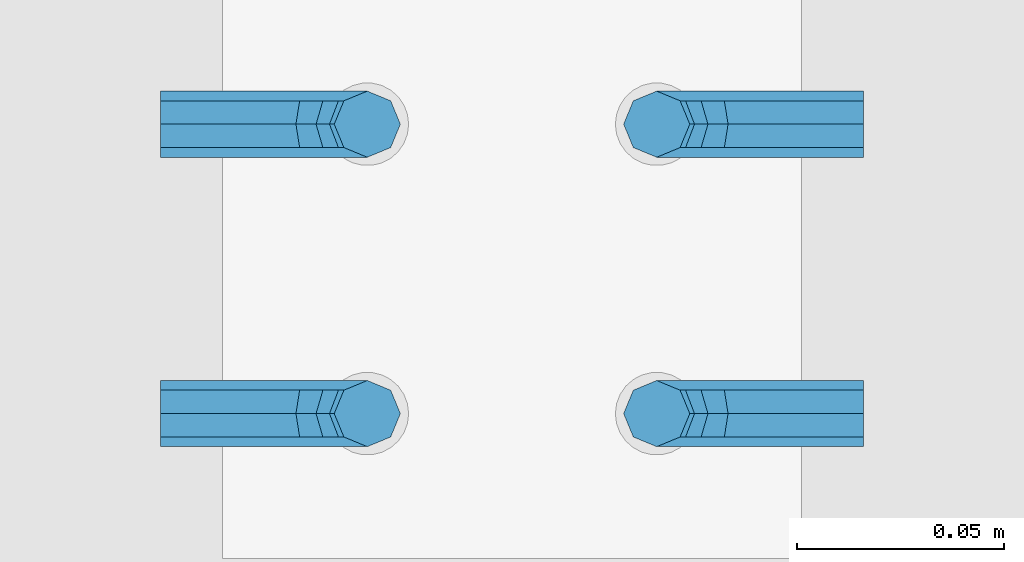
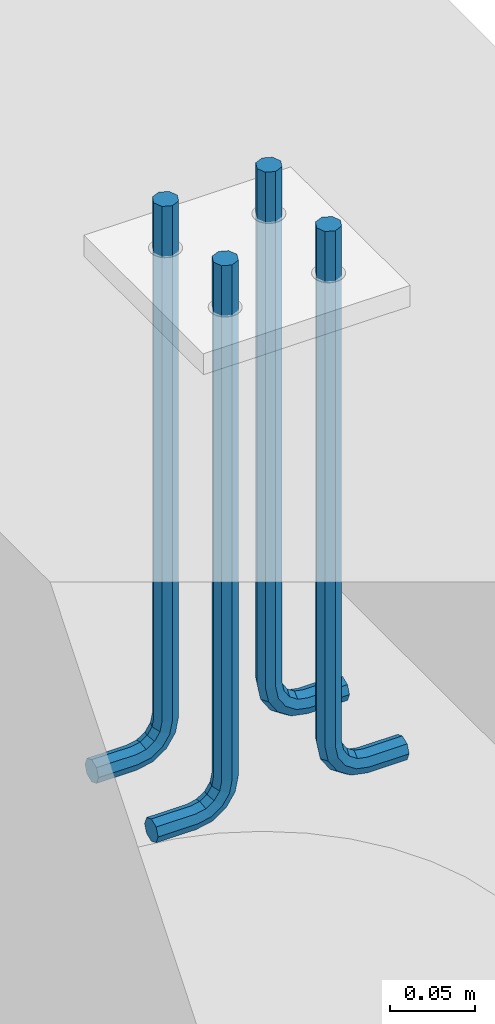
# One storey, part 22 of 22: 4 beams.
"""IFC2X3 building model written with IfcOpenShell, lengths in millimetres."""

from ifc_helpers import new_model, si_unit, frame, origin_with_axes, place, context, subcontext, project, spatial, faceted_brep, material, type_object, element, save


model = new_model("IFC2X3")

# Units and contexts
model_context = context("Model", 3, precision=1e-05, world=origin_with_axes())
body_context = subcontext(model_context, "Body", "Model", "MODEL_VIEW")
ifc_project = project(units=[si_unit("LENGTHUNIT", "METRE", prefix="MILLI"), si_unit("AREAUNIT", "SQUARE_METRE"), si_unit("VOLUMEUNIT", "CUBIC_METRE"), si_unit("MASSUNIT", "GRAM", prefix="KILO"), si_unit("TIMEUNIT", "SECOND"), si_unit("PLANEANGLEUNIT", "RADIAN"), si_unit("SOLIDANGLEUNIT", "STERADIAN"), si_unit("THERMODYNAMICTEMPERATUREUNIT", "DEGREE_CELSIUS"), si_unit("LUMINOUSINTENSITYUNIT", "LUMEN")], contexts=[model_context])

# Site, building, storey
site_placement = place(None, origin_with_axes())
site = spatial("IfcSite", under=ifc_project, at=site_placement, Name="Undefined", CompositionType="ELEMENT")
building_placement = place(site_placement, origin_with_axes())
building = spatial("IfcBuilding", under=site, at=building_placement, Name="Undefined", CompositionType="ELEMENT")
storey_placement = place(building_placement, origin_with_axes())
storey = spatial("IfcBuildingStorey", under=building, at=storey_placement, Name="Undefined", CompositionType="ELEMENT", Elevation=0.0)

# Beams
ifc_material = material(Name="STEEL/S235JR")
beam_type = type_object("IfcBeamType", Name="ANKER_M16", PredefinedType="NOTDEFINED")
beam_1_placement = place(storey_placement, frame((49181.1203901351, 41569.3009584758, -200.0), z_axis=(1.0, 0.0, 0.0), x_axis=(0.0, 0.0, -1.0)))
element("IfcBeam", 1, at=beam_1_placement, inside=storey, type_object=beam_type, material=ifc_material, Name="ANKER", context=body_context, shape_type="Brep", body=[
    faceted_brep([(0.0, -8.00000000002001, 7.27595761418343e-12), (0.0, -5.65685424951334, -5.65685424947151), (369.0, -5.65685424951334, -5.65685424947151), (369.0, -8.00000000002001, 7.27595761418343e-12), (0.0, -9.09494701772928e-12, -7.99999999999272), (369.0, -9.09494701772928e-12, -7.99999999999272), (0.0, 5.65685424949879, -5.65685424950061), (369.0, 5.65685424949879, -5.65685424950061), (0.0, 8.00000000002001, -3.63797880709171e-11), (369.0, 8.00000000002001, -3.63797880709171e-11), (0.0, 5.65685424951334, 5.65685424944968), (369.0, 5.65685424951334, 5.65685424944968), (0.0, 5.45696821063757e-12, 7.99999999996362), (369.0, 5.45696821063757e-12, 7.99999999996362), (0.0, -5.65685424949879, 5.65685424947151), (369.0, -5.65685424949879, 5.65685424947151), (380.863186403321, 9.09494701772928e-12, 5.64026550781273), (379.966503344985, 5.65685424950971, 3.4754811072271), (377.8017189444, 8.00000000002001, -1.75077075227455), (375.636934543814, 5.65685424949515, -6.97702261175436), (374.740251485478, -9.09494701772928e-12, -9.14180701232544), (375.636934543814, -5.65685424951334, -6.97702261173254), (377.8017189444, -8.00000000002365, -1.75077075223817), (379.966503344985, -5.65685424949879, 3.4754811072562), (389.263455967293, -5.65685424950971, -2.73654403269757), (390.920310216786, -1.81898940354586e-12, -1.07968978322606), (385.263455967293, -8.00000000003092, -6.73654403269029), (381.263455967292, -5.65685424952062, -10.736544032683), (379.6066017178, -9.09494701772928e-12, -12.3933982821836), (381.263455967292, 5.65685424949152, -10.7365440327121), (385.263455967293, 8.00000000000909, -6.73654403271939), (389.263455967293, 5.65685424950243, -2.73654403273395), (395.475481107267, -5.65685424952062, -12.0334966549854), (397.640265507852, -1.2732925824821e-11, -11.1368135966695), (390.249229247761, -8.00000000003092, -14.1982810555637), (385.022977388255, -5.65685424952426, -16.3630654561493), (382.85819298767, -1.63709046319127e-11, -17.2597485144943), (385.022977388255, 5.65685424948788, -16.3630654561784), (390.249229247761, 8.00000000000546, -14.1982810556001), (395.475481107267, 5.65685424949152, -12.0334966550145), (397.656854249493, -5.65685424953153, -22.9999999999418), (400.000000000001, -2.36468622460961e-11, -22.9999999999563), (392.0, -8.00000000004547, -22.9999999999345), (386.343145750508, -5.65685424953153, -22.9999999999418), (384.000000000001, -2.36468622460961e-11, -22.9999999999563), (386.343145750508, 5.65685424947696, -22.9999999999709), (392.000000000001, 7.99999999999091, -22.9999999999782), (397.656854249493, 5.65685424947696, -22.9999999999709), (386.343145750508, -5.65685424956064, -49.9999999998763), (392.0, -8.00000000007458, -49.999999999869), (384.0, -5.63886715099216e-11, -49.9999999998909), (386.343145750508, 5.65685424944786, -49.9999999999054), (392.0, 7.9999999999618, -49.9999999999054), (397.656854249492, 5.65685424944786, -49.9999999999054), (400.0, -5.63886715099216e-11, -49.9999999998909), (397.656854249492, -5.65685424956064, -49.9999999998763)], [[[0, 1, 2, 3]], [[1, 4, 5, 2]], [[4, 6, 7, 5]], [[6, 8, 9, 7]], [[8, 10, 11, 9]], [[10, 12, 13, 11]], [[12, 14, 15, 13]], [[14, 0, 3, 15]], [[14, 12, 10, 8, 6, 4, 1, 0]], [[11, 13, 16, 17]], [[9, 11, 17, 18]], [[7, 9, 18, 19]], [[5, 7, 19, 20]], [[2, 5, 20, 21]], [[3, 2, 21, 22]], [[15, 3, 22, 23]], [[13, 15, 23, 16]], [[23, 24, 25, 16]], [[22, 26, 24, 23]], [[21, 27, 26, 22]], [[20, 28, 27, 21]], [[19, 29, 28, 20]], [[18, 30, 29, 19]], [[17, 31, 30, 18]], [[16, 25, 31, 17]], [[24, 32, 33, 25]], [[26, 34, 32, 24]], [[27, 35, 34, 26]], [[28, 36, 35, 27]], [[29, 37, 36, 28]], [[30, 38, 37, 29]], [[31, 39, 38, 30]], [[25, 33, 39, 31]], [[32, 40, 41, 33]], [[34, 42, 40, 32]], [[35, 43, 42, 34]], [[36, 44, 43, 35]], [[37, 45, 44, 36]], [[38, 46, 45, 37]], [[39, 47, 46, 38]], [[33, 41, 47, 39]], [[42, 43, 48, 49]], [[43, 44, 50, 48]], [[44, 45, 51, 50]], [[45, 46, 52, 51]], [[46, 47, 53, 52]], [[47, 41, 54, 53]], [[41, 40, 55, 54]], [[40, 42, 49, 55]], [[50, 51, 52, 53, 54, 55, 49, 48]]]),
])
beam_2_placement = place(storey_placement, frame((49181.1203901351, 41499.3009584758, -200.0), z_axis=(1.0, 0.0, 0.0), x_axis=(0.0, 0.0, -1.0)))
element("IfcBeam", 2, at=beam_2_placement, inside=storey, type_object=beam_type, material=ifc_material, Name="ANKER", context=body_context, shape_type="Brep", body=[
    faceted_brep([(0.0, -8.00000000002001, 7.27595761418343e-12), (0.0, -5.65685424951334, -5.65685424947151), (369.0, -5.65685424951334, -5.65685424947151), (369.0, -8.00000000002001, 7.27595761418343e-12), (0.0, -9.09494701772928e-12, -7.99999999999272), (369.0, -9.09494701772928e-12, -7.99999999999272), (0.0, 5.65685424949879, -5.65685424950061), (369.0, 5.65685424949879, -5.65685424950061), (0.0, 8.00000000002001, -3.63797880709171e-11), (369.0, 8.00000000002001, -3.63797880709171e-11), (0.0, 5.65685424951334, 5.65685424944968), (369.0, 5.65685424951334, 5.65685424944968), (0.0, 5.45696821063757e-12, 7.99999999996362), (369.0, 5.45696821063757e-12, 7.99999999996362), (0.0, -5.65685424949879, 5.65685424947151), (369.0, -5.65685424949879, 5.65685424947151), (380.863186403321, 9.09494701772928e-12, 5.64026550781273), (379.966503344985, 5.65685424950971, 3.4754811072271), (377.8017189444, 8.00000000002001, -1.75077075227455), (375.636934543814, 5.65685424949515, -6.97702261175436), (374.740251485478, -9.09494701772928e-12, -9.14180701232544), (375.636934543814, -5.65685424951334, -6.97702261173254), (377.8017189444, -8.00000000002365, -1.75077075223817), (379.966503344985, -5.65685424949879, 3.4754811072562), (389.263455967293, -5.65685424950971, -2.73654403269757), (390.920310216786, -1.81898940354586e-12, -1.07968978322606), (385.263455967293, -8.00000000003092, -6.73654403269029), (381.263455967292, -5.65685424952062, -10.736544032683), (379.6066017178, -9.09494701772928e-12, -12.3933982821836), (381.263455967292, 5.65685424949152, -10.7365440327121), (385.263455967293, 8.00000000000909, -6.73654403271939), (389.263455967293, 5.65685424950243, -2.73654403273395), (395.475481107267, -5.65685424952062, -12.0334966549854), (397.640265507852, -1.2732925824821e-11, -11.1368135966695), (390.249229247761, -8.00000000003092, -14.1982810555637), (385.022977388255, -5.65685424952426, -16.3630654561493), (382.85819298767, -1.63709046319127e-11, -17.2597485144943), (385.022977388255, 5.65685424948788, -16.3630654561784), (390.249229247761, 8.00000000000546, -14.1982810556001), (395.475481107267, 5.65685424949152, -12.0334966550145), (397.656854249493, -5.65685424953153, -22.9999999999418), (400.000000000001, -2.36468622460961e-11, -22.9999999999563), (392.0, -8.00000000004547, -22.9999999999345), (386.343145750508, -5.65685424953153, -22.9999999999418), (384.000000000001, -2.36468622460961e-11, -22.9999999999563), (386.343145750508, 5.65685424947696, -22.9999999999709), (392.000000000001, 7.99999999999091, -22.9999999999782), (397.656854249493, 5.65685424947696, -22.9999999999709), (386.343145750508, -5.65685424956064, -49.9999999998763), (392.0, -8.00000000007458, -49.999999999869), (384.0, -5.63886715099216e-11, -49.9999999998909), (386.343145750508, 5.65685424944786, -49.9999999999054), (392.0, 7.9999999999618, -49.9999999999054), (397.656854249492, 5.65685424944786, -49.9999999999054), (400.0, -5.63886715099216e-11, -49.9999999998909), (397.656854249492, -5.65685424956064, -49.9999999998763)], [[[0, 1, 2, 3]], [[1, 4, 5, 2]], [[4, 6, 7, 5]], [[6, 8, 9, 7]], [[8, 10, 11, 9]], [[10, 12, 13, 11]], [[12, 14, 15, 13]], [[14, 0, 3, 15]], [[14, 12, 10, 8, 6, 4, 1, 0]], [[11, 13, 16, 17]], [[9, 11, 17, 18]], [[7, 9, 18, 19]], [[5, 7, 19, 20]], [[2, 5, 20, 21]], [[3, 2, 21, 22]], [[15, 3, 22, 23]], [[13, 15, 23, 16]], [[23, 24, 25, 16]], [[22, 26, 24, 23]], [[21, 27, 26, 22]], [[20, 28, 27, 21]], [[19, 29, 28, 20]], [[18, 30, 29, 19]], [[17, 31, 30, 18]], [[16, 25, 31, 17]], [[24, 32, 33, 25]], [[26, 34, 32, 24]], [[27, 35, 34, 26]], [[28, 36, 35, 27]], [[29, 37, 36, 28]], [[30, 38, 37, 29]], [[31, 39, 38, 30]], [[25, 33, 39, 31]], [[32, 40, 41, 33]], [[34, 42, 40, 32]], [[35, 43, 42, 34]], [[36, 44, 43, 35]], [[37, 45, 44, 36]], [[38, 46, 45, 37]], [[39, 47, 46, 38]], [[33, 41, 47, 39]], [[42, 43, 48, 49]], [[43, 44, 50, 48]], [[44, 45, 51, 50]], [[45, 46, 52, 51]], [[46, 47, 53, 52]], [[47, 41, 54, 53]], [[41, 40, 55, 54]], [[40, 42, 49, 55]], [[50, 51, 52, 53, 54, 55, 49, 48]]]),
])
beam_3_placement = place(storey_placement, frame((49251.1203901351, 41569.3009584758, -200.0), z_axis=(1.0, 0.0, 0.0), x_axis=(0.0, 0.0, -1.0)))
element("IfcBeam", 3, at=beam_3_placement, inside=storey, type_object=beam_type, material=ifc_material, Name="ANKER", context=body_context, shape_type="Brep", body=[
    faceted_brep([(0.0, -8.00000000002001, 7.27595761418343e-12), (0.0, -5.65685424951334, -5.65685424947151), (369.0, -5.65685424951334, -5.65685424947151), (369.0, -8.00000000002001, 7.27595761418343e-12), (0.0, -9.09494701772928e-12, -7.99999999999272), (369.0, -9.09494701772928e-12, -7.99999999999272), (0.0, 5.65685424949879, -5.65685424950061), (369.0, 5.65685424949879, -5.65685424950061), (0.0, 8.00000000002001, -3.63797880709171e-11), (369.0, 8.00000000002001, -3.63797880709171e-11), (0.0, 5.65685424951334, 5.65685424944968), (369.0, 5.65685424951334, 5.65685424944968), (0.0, 5.45696821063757e-12, 7.99999999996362), (369.0, 5.45696821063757e-12, 7.99999999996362), (0.0, -5.65685424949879, 5.65685424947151), (369.0, -5.65685424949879, 5.65685424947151), (380.863186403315, -9.09494701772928e-12, -5.64026550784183), (379.966503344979, -5.65685424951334, -3.47548110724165), (377.801718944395, -8.00000000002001, 1.75077075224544), (375.636934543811, -5.65685424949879, 6.97702261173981), (374.740251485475, 1.2732925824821e-11, 9.14180701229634), (375.636934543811, 5.65685424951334, 6.97702261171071), (377.801718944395, 8.00000000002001, 1.75077075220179), (379.966503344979, 5.65685424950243, -3.47548110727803), (389.263455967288, 5.65685424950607, 2.73654403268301), (390.920310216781, -1.81898940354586e-12, 1.07968978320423), (385.263455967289, 8.00000000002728, 6.73654403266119), (381.263455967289, 5.65685424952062, 10.7365440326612), (379.606601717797, 1.2732925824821e-11, 12.3933982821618), (381.263455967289, -5.65685424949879, 10.736544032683), (385.263455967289, -8.00000000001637, 6.73654403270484), (389.263455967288, -5.65685424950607, 2.73654403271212), (395.475481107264, 5.65685424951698, 12.0334966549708), (397.640265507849, 1.2732925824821e-11, 11.1368135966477), (390.249229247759, 8.00000000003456, 14.1982810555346), (385.022977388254, 5.65685424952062, 16.3630654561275), (382.858192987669, 1.63709046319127e-11, 17.2597485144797), (385.022977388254, -5.65685424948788, 16.3630654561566), (390.249229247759, -8.00000000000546, 14.1982810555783), (395.475481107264, -5.65685424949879, 12.0334966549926), (397.656854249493, 5.65685424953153, 22.99999999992), (400.000000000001, 2.36468622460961e-11, 22.9999999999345), (392.000000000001, 8.00000000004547, 22.99999999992), (386.343145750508, 5.65685424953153, 22.99999999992), (384.000000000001, 2.36468622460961e-11, 22.9999999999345), (386.343145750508, -5.65685424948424, 22.9999999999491), (392.0, -7.99999999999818, 22.9999999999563), (397.656854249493, -5.65685424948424, 22.9999999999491), (397.656854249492, -5.6568542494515, 49.9999999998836), (392.0, -7.99999999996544, 49.9999999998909), (400.0, 5.27506927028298e-11, 49.999999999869), (397.656854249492, 5.65685424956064, 49.9999999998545), (392.0, 8.00000000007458, 49.9999999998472), (386.343145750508, 5.65685424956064, 49.9999999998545), (384.0, 5.27506927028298e-11, 49.999999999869), (386.343145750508, -5.6568542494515, 49.9999999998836)], [[[0, 1, 2, 3]], [[1, 4, 5, 2]], [[4, 6, 7, 5]], [[6, 8, 9, 7]], [[8, 10, 11, 9]], [[10, 12, 13, 11]], [[12, 14, 15, 13]], [[14, 0, 3, 15]], [[14, 12, 10, 8, 6, 4, 1, 0]], [[2, 5, 16, 17]], [[3, 2, 17, 18]], [[15, 3, 18, 19]], [[13, 15, 19, 20]], [[11, 13, 20, 21]], [[9, 11, 21, 22]], [[7, 9, 22, 23]], [[5, 7, 23, 16]], [[23, 24, 25, 16]], [[22, 26, 24, 23]], [[21, 27, 26, 22]], [[20, 28, 27, 21]], [[19, 29, 28, 20]], [[18, 30, 29, 19]], [[17, 31, 30, 18]], [[16, 25, 31, 17]], [[24, 32, 33, 25]], [[26, 34, 32, 24]], [[27, 35, 34, 26]], [[28, 36, 35, 27]], [[29, 37, 36, 28]], [[30, 38, 37, 29]], [[31, 39, 38, 30]], [[25, 33, 39, 31]], [[32, 40, 41, 33]], [[34, 42, 40, 32]], [[35, 43, 42, 34]], [[36, 44, 43, 35]], [[37, 45, 44, 36]], [[38, 46, 45, 37]], [[39, 47, 46, 38]], [[33, 41, 47, 39]], [[46, 47, 48, 49]], [[47, 41, 50, 48]], [[41, 40, 51, 50]], [[40, 42, 52, 51]], [[42, 43, 53, 52]], [[43, 44, 54, 53]], [[44, 45, 55, 54]], [[45, 46, 49, 55]], [[50, 51, 52, 53, 54, 55, 49, 48]]]),
])
beam_4_placement = place(storey_placement, frame((49251.1203901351, 41499.3009584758, -200.0), z_axis=(-1.0, 0.0, 0.0), x_axis=(0.0, 0.0, -1.0)))
element("IfcBeam", 4, at=beam_4_placement, inside=storey, type_object=beam_type, material=ifc_material, Name="ANKER", context=body_context, shape_type="Brep", body=[
    faceted_brep([(0.0, -8.00000000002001, 7.27595761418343e-12), (0.0, -5.65685424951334, -5.65685424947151), (369.0, -5.65685424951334, -5.65685424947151), (369.0, -8.00000000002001, 7.27595761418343e-12), (0.0, -9.09494701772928e-12, -7.99999999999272), (369.0, -9.09494701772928e-12, -7.99999999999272), (0.0, 5.65685424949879, -5.65685424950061), (369.0, 5.65685424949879, -5.65685424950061), (0.0, 8.00000000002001, -3.63797880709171e-11), (369.0, 8.00000000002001, -3.63797880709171e-11), (0.0, 5.65685424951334, 5.65685424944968), (369.0, 5.65685424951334, 5.65685424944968), (0.0, 5.45696821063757e-12, 7.99999999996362), (369.0, 5.45696821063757e-12, 7.99999999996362), (0.0, -5.65685424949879, 5.65685424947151), (369.0, -5.65685424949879, 5.65685424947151), (380.863186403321, 9.09494701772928e-12, 5.64026550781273), (379.966503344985, 5.65685424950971, 3.4754811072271), (377.8017189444, 8.00000000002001, -1.75077075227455), (375.636934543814, 5.65685424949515, -6.97702261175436), (374.740251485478, -9.09494701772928e-12, -9.14180701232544), (375.636934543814, -5.65685424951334, -6.97702261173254), (377.8017189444, -8.00000000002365, -1.75077075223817), (379.966503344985, -5.65685424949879, 3.4754811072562), (389.263455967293, -5.65685424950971, -2.73654403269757), (390.920310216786, -1.81898940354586e-12, -1.07968978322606), (385.263455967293, -8.00000000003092, -6.73654403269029), (381.263455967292, -5.65685424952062, -10.736544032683), (379.6066017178, -9.09494701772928e-12, -12.3933982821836), (381.263455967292, 5.65685424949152, -10.7365440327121), (385.263455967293, 8.00000000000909, -6.73654403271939), (389.263455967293, 5.65685424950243, -2.73654403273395), (395.475481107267, -5.65685424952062, -12.0334966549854), (397.640265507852, -1.2732925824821e-11, -11.1368135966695), (390.249229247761, -8.00000000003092, -14.1982810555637), (385.022977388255, -5.65685424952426, -16.3630654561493), (382.85819298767, -1.63709046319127e-11, -17.2597485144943), (385.022977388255, 5.65685424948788, -16.3630654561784), (390.249229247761, 8.00000000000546, -14.1982810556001), (395.475481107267, 5.65685424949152, -12.0334966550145), (397.656854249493, -5.65685424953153, -22.9999999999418), (400.000000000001, -2.36468622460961e-11, -22.9999999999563), (392.0, -8.00000000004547, -22.9999999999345), (386.343145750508, -5.65685424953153, -22.9999999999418), (384.000000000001, -2.36468622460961e-11, -22.9999999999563), (386.343145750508, 5.65685424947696, -22.9999999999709), (392.000000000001, 7.99999999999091, -22.9999999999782), (397.656854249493, 5.65685424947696, -22.9999999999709), (386.343145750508, -5.65685424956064, -49.9999999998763), (392.0, -8.00000000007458, -49.999999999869), (384.0, -5.63886715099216e-11, -49.9999999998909), (386.343145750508, 5.65685424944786, -49.9999999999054), (392.0, 7.9999999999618, -49.9999999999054), (397.656854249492, 5.65685424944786, -49.9999999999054), (400.0, -5.63886715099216e-11, -49.9999999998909), (397.656854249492, -5.65685424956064, -49.9999999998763)], [[[0, 1, 2, 3]], [[1, 4, 5, 2]], [[4, 6, 7, 5]], [[6, 8, 9, 7]], [[8, 10, 11, 9]], [[10, 12, 13, 11]], [[12, 14, 15, 13]], [[14, 0, 3, 15]], [[14, 12, 10, 8, 6, 4, 1, 0]], [[11, 13, 16, 17]], [[9, 11, 17, 18]], [[7, 9, 18, 19]], [[5, 7, 19, 20]], [[2, 5, 20, 21]], [[3, 2, 21, 22]], [[15, 3, 22, 23]], [[13, 15, 23, 16]], [[23, 24, 25, 16]], [[22, 26, 24, 23]], [[21, 27, 26, 22]], [[20, 28, 27, 21]], [[19, 29, 28, 20]], [[18, 30, 29, 19]], [[17, 31, 30, 18]], [[16, 25, 31, 17]], [[24, 32, 33, 25]], [[26, 34, 32, 24]], [[27, 35, 34, 26]], [[28, 36, 35, 27]], [[29, 37, 36, 28]], [[30, 38, 37, 29]], [[31, 39, 38, 30]], [[25, 33, 39, 31]], [[32, 40, 41, 33]], [[34, 42, 40, 32]], [[35, 43, 42, 34]], [[36, 44, 43, 35]], [[37, 45, 44, 36]], [[38, 46, 45, 37]], [[39, 47, 46, 38]], [[33, 41, 47, 39]], [[42, 43, 48, 49]], [[43, 44, 50, 48]], [[44, 45, 51, 50]], [[45, 46, 52, 51]], [[46, 47, 53, 52]], [[47, 41, 54, 53]], [[41, 40, 55, 54]], [[40, 42, 49, 55]], [[50, 51, 52, 53, 54, 55, 49, 48]]]),
])

save(model, "model.ifc")
